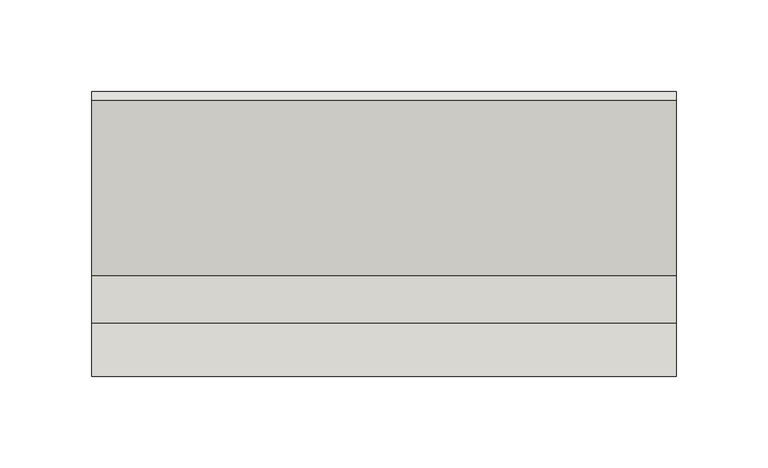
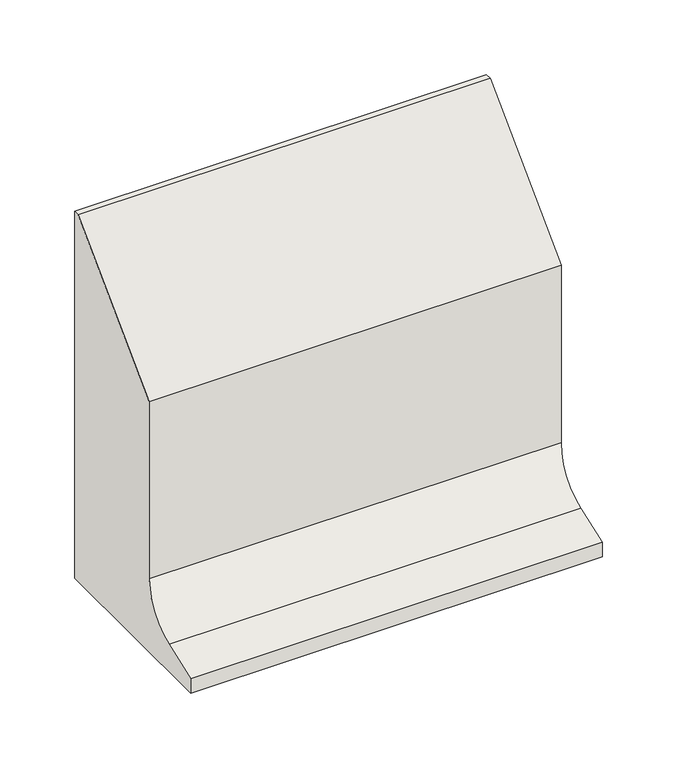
"""IFC4 building model written with IfcOpenShell, lengths in millimetres: wall geometry, GM_ST_WPB_ACO kerb SS straight_ACO : S/S H300."""

from ifc_helpers import new_model, si_unit, point, frame, frame_2d, origin, place, context, project, spatial, polyline, circle_curve, trimmed, segment, composite_curve, outline, extrude, source, transform, mapped, element, save


def wall_7ffb6d73(model_context):
    return source(origin(), model_context, "Body", "SweptSolid", [
        extrude(outline(composite_curve([segment(polyline([(-154.9291966, 0.0), (-154.9291966, 11.977476), (-126.1987698, 22.4886008)]), True, "CONTINUOUS"), segment(trimmed(circle_curve(frame_2d((-139.9420231, 60.0535178)), 40.0), [point((-126.1987698, 22.4886008))], [point((-99.9420231, 60.0535178))], True, "CARTESIAN"), True, "CONTINUOUS"), segment(polyline([(-99.9420231, 60.0535178), (-99.9420231, 204.9637441), (-4.952669, 299.9530982), (0.0, 299.9530982), (0.0, 0.0), (-154.9291966, 0.0)]), True, "CONTINUOUS")], self_intersect=False)), frame((0.0, 0.0, 0.0), z_axis=(1.0, 0.0, 0.0), x_axis=(0.0, 1.0, 0.0)), (0.0, 0.0, 1.0), 318.0),
    ])


if __name__ == "__main__":
    model = new_model("IFC4")
    model_context = context("Model", 3, world=origin())
    ifc_project = project(units=[si_unit("LENGTHUNIT", "METRE", prefix="MILLI")], contexts=[model_context])
    site = spatial("IfcSite", under=ifc_project)
    building = spatial("IfcBuilding", under=site)
    placement = place(None, origin())
    wall_shape = wall_7ffb6d73(model_context)
    element("IfcWall", 1, ObjectType="GM_ST_WPB_ACO kerb SS straight_ACO : S/S H300", at=placement, inside=building, context=model_context, shape_type="MappedRepresentation", body=[
        mapped(wall_shape, transform((0.0, 0.0, 0.0), x_axis=(1.0, 0.0, 0.0), y_axis=(0.0, 1.0, 0.0), z_axis=(0.0, 0.0, 1.0))),
    ])
    save(model, "model.ifc")
